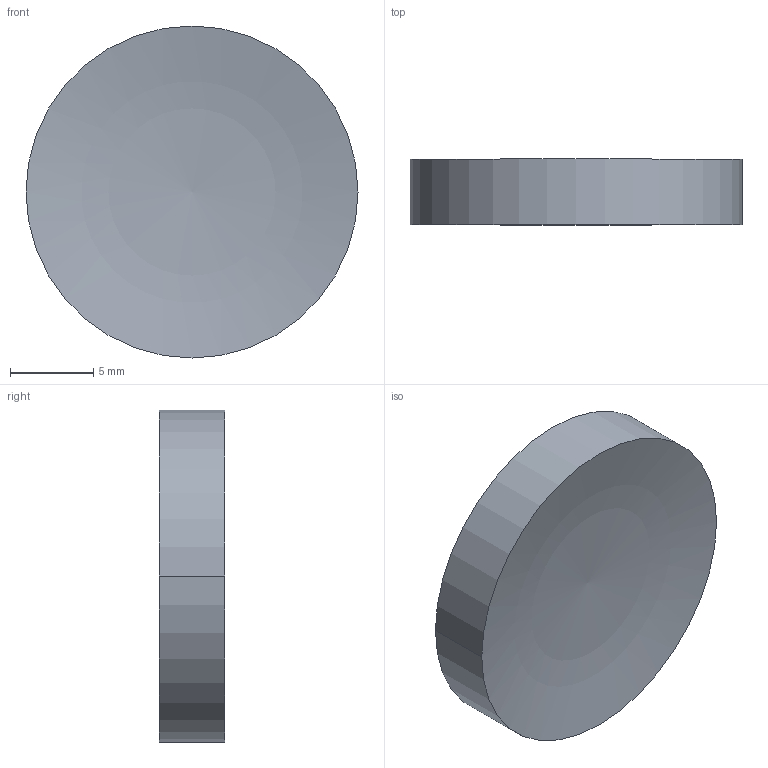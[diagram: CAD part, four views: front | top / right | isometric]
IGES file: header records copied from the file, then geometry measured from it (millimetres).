
Global section: file name: No Iges File Name specified; native system: AutoDesk Inventor R12.0; preprocessor: AutoDesk Inventor Iges Exporter R12.0; author: No Author specified; organization: No Organization specified; date: 20090519.152833; units: millimetre
Bounding box: 20 x 3.94 x 20 mm (x, y, z)
Volume: 932.9 mm3; surface area: 882.1 mm2
Topology: 1 solids, 1 shells, 4 faces, 6 edges, 4 vertices
Faces by surface type: cylinder 2, bspline 2
